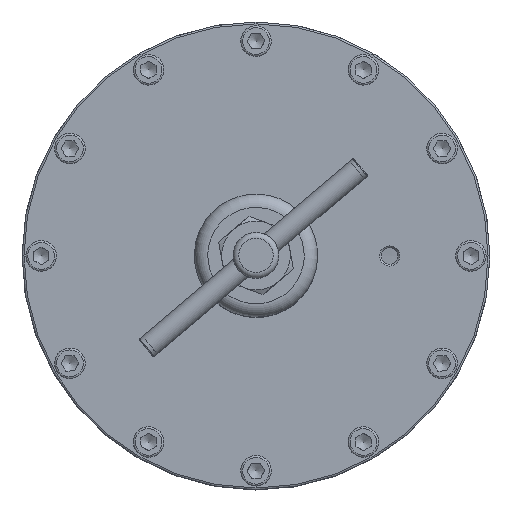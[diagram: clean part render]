
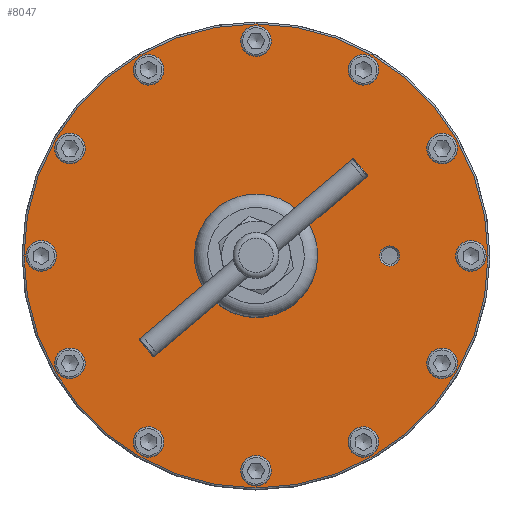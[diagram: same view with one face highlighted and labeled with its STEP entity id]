
A CAD part, top view. The second image highlights one B-rep face of the part: STEP entity #8047.
In plain terms, the highlighted planar face has unit normal (0, 0, 1) as drawn and (0, 1, 0) by its records, which use the part's own axes.
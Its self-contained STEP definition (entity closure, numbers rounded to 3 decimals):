
#7873=CARTESIAN_POINT('',(75.283,0.,0.));
#7874=VERTEX_POINT('',#7873);
#7875=CARTESIAN_POINT('',(70.,0.,0.));
#7876=DIRECTION('',(0.0,1.0,0.0));
#7877=DIRECTION('',(-1.0,0.0,0.0));
#7878=AXIS2_PLACEMENT_3D('',#7875,#7876,#7877);
#7879=CIRCLE('',#7878,5.283);
#7880=EDGE_CURVE('',#7874,#7874,#7879,.T.);
#7885=CARTESIAN_POINT('',(-25.,0.,0.));
#7886=DIRECTION('',(0.0,1.0,0.0));
#7887=DIRECTION('',(0.0,0.0,1.0));
#7888=AXIS2_PLACEMENT_3D('',#7885,#7886,#7887);
#7889=PLANE('',#7888);
#7890=CARTESIAN_POINT('',(-121.5,0.,0.));
#7891=VERTEX_POINT('',#7890);
#7892=CARTESIAN_POINT('',(0.,0.,0.));
#7893=DIRECTION('',(0.0,-1.0,0.0));
#7894=DIRECTION('',(1.0,0.0,0.0));
#7895=AXIS2_PLACEMENT_3D('',#7892,#7893,#7894);
#7896=CIRCLE('',#7895,121.5);
#7897=EDGE_CURVE('',#7891,#7891,#7896,.T.);
#7898=ORIENTED_EDGE('',*,*,#7897,.F.);
#7899=EDGE_LOOP('',(#7898));
#7900=FACE_OUTER_BOUND('',#7899,.T.);
#7901=CARTESIAN_POINT('',(-92.881,0.,-53.625));
#7902=VERTEX_POINT('',#7901);
#7903=CARTESIAN_POINT('',(-97.428,0.,-56.25));
#7904=DIRECTION('',(0.0,-1.0,0.0));
#7905=DIRECTION('',(0.866,0.0,0.5));
#7906=AXIS2_PLACEMENT_3D('',#7903,#7904,#7905);
#7907=CIRCLE('',#7906,5.25);
#7908=EDGE_CURVE('',#7902,#7902,#7907,.T.);
#7909=ORIENTED_EDGE('',*,*,#7908,.T.);
#7910=EDGE_LOOP('',(#7909));
#7911=FACE_BOUND('',#7910,.T.);
#7912=CARTESIAN_POINT('',(-53.625,0.,-92.881));
#7913=VERTEX_POINT('',#7912);
#7914=CARTESIAN_POINT('',(-56.25,0.,-97.428));
#7915=DIRECTION('',(0.0,-1.,0.0));
#7916=DIRECTION('',(0.5,0.0,0.866));
#7917=AXIS2_PLACEMENT_3D('',#7914,#7915,#7916);
#7918=CIRCLE('',#7917,5.25);
#7919=EDGE_CURVE('',#7913,#7913,#7918,.T.);
#7920=ORIENTED_EDGE('',*,*,#7919,.T.);
#7921=EDGE_LOOP('',(#7920));
#7922=FACE_BOUND('',#7921,.T.);
#7923=CARTESIAN_POINT('',(0.,0.,-107.25));
#7924=VERTEX_POINT('',#7923);
#7925=CARTESIAN_POINT('',(0.,0.,-112.5));
#7926=DIRECTION('',(0.0,-1.0,0.0));
#7927=DIRECTION('',(0.0,0.0,1.0));
#7928=AXIS2_PLACEMENT_3D('',#7925,#7926,#7927);
#7929=CIRCLE('',#7928,5.25);
#7930=EDGE_CURVE('',#7924,#7924,#7929,.T.);
#7931=ORIENTED_EDGE('',*,*,#7930,.T.);
#7932=EDGE_LOOP('',(#7931));
#7933=FACE_BOUND('',#7932,.T.);
#7934=CARTESIAN_POINT('',(53.625,0.,-92.881));
#7935=VERTEX_POINT('',#7934);
#7936=CARTESIAN_POINT('',(56.25,0.,-97.428));
#7937=DIRECTION('',(0.0,-1.0,0.0));
#7938=DIRECTION('',(-0.5,0.0,0.866));
#7939=AXIS2_PLACEMENT_3D('',#7936,#7937,#7938);
#7940=CIRCLE('',#7939,5.25);
#7941=EDGE_CURVE('',#7935,#7935,#7940,.T.);
#7942=ORIENTED_EDGE('',*,*,#7941,.T.);
#7943=EDGE_LOOP('',(#7942));
#7944=FACE_BOUND('',#7943,.T.);
#7945=CARTESIAN_POINT('',(92.881,0.,-53.625));
#7946=VERTEX_POINT('',#7945);
#7947=CARTESIAN_POINT('',(97.428,0.,-56.25));
#7948=DIRECTION('',(0.0,-1.0,0.0));
#7949=DIRECTION('',(-0.866,0.0,0.5));
#7950=AXIS2_PLACEMENT_3D('',#7947,#7948,#7949);
#7951=CIRCLE('',#7950,5.25);
#7952=EDGE_CURVE('',#7946,#7946,#7951,.T.);
#7953=ORIENTED_EDGE('',*,*,#7952,.T.);
#7954=EDGE_LOOP('',(#7953));
#7955=FACE_BOUND('',#7954,.T.);
#7956=CARTESIAN_POINT('',(107.25,0.,0.));
#7957=VERTEX_POINT('',#7956);
#7958=CARTESIAN_POINT('',(112.5,0.,0.));
#7959=DIRECTION('',(0.0,-1.0,0.0));
#7960=DIRECTION('',(-1.0,0.0,0.0));
#7961=AXIS2_PLACEMENT_3D('',#7958,#7959,#7960);
#7962=CIRCLE('',#7961,5.25);
#7963=EDGE_CURVE('',#7957,#7957,#7962,.T.);
#7964=ORIENTED_EDGE('',*,*,#7963,.T.);
#7965=EDGE_LOOP('',(#7964));
#7966=FACE_BOUND('',#7965,.T.);
#7967=CARTESIAN_POINT('',(92.881,0.,53.625));
#7968=VERTEX_POINT('',#7967);
#7969=CARTESIAN_POINT('',(97.428,0.,56.25));
#7970=DIRECTION('',(0.0,-1.0,0.0));
#7971=DIRECTION('',(-0.866,0.0,-0.5));
#7972=AXIS2_PLACEMENT_3D('',#7969,#7970,#7971);
#7973=CIRCLE('',#7972,5.25);
#7974=EDGE_CURVE('',#7968,#7968,#7973,.T.);
#7975=ORIENTED_EDGE('',*,*,#7974,.T.);
#7976=EDGE_LOOP('',(#7975));
#7977=FACE_BOUND('',#7976,.T.);
#7978=CARTESIAN_POINT('',(53.625,0.,92.881));
#7979=VERTEX_POINT('',#7978);
#7980=CARTESIAN_POINT('',(56.25,0.,97.428));
#7981=DIRECTION('',(0.0,-1.0,0.0));
#7982=DIRECTION('',(-0.5,0.0,-0.866));
#7983=AXIS2_PLACEMENT_3D('',#7980,#7981,#7982);
#7984=CIRCLE('',#7983,5.25);
#7985=EDGE_CURVE('',#7979,#7979,#7984,.T.);
#7986=ORIENTED_EDGE('',*,*,#7985,.T.);
#7987=EDGE_LOOP('',(#7986));
#7988=FACE_BOUND('',#7987,.T.);
#7989=CARTESIAN_POINT('',(0.,0.,107.25));
#7990=VERTEX_POINT('',#7989);
#7991=CARTESIAN_POINT('',(0.,0.,112.5));
#7992=DIRECTION('',(0.0,-1.0,0.0));
#7993=DIRECTION('',(0.0,0.0,-1.0));
#7994=AXIS2_PLACEMENT_3D('',#7991,#7992,#7993);
#7995=CIRCLE('',#7994,5.25);
#7996=EDGE_CURVE('',#7990,#7990,#7995,.T.);
#7997=ORIENTED_EDGE('',*,*,#7996,.T.);
#7998=EDGE_LOOP('',(#7997));
#7999=FACE_BOUND('',#7998,.T.);
#8000=CARTESIAN_POINT('',(-53.625,0.,92.881));
#8001=VERTEX_POINT('',#8000);
#8002=CARTESIAN_POINT('',(-56.25,0.,97.428));
#8003=DIRECTION('',(0.0,-1.0,0.0));
#8004=DIRECTION('',(0.5,0.0,-0.866));
#8005=AXIS2_PLACEMENT_3D('',#8002,#8003,#8004);
#8006=CIRCLE('',#8005,5.25);
#8007=EDGE_CURVE('',#8001,#8001,#8006,.T.);
#8008=ORIENTED_EDGE('',*,*,#8007,.T.);
#8009=EDGE_LOOP('',(#8008));
#8010=FACE_BOUND('',#8009,.T.);
#8011=CARTESIAN_POINT('',(-92.881,0.,53.625));
#8012=VERTEX_POINT('',#8011);
#8013=CARTESIAN_POINT('',(-97.428,0.,56.25));
#8014=DIRECTION('',(0.0,-1.0,0.0));
#8015=DIRECTION('',(0.866,0.0,-0.5));
#8016=AXIS2_PLACEMENT_3D('',#8013,#8014,#8015);
#8017=CIRCLE('',#8016,5.25);
#8018=EDGE_CURVE('',#8012,#8012,#8017,.T.);
#8019=ORIENTED_EDGE('',*,*,#8018,.T.);
#8020=EDGE_LOOP('',(#8019));
#8021=FACE_BOUND('',#8020,.T.);
#8022=CARTESIAN_POINT('',(-107.25,0.,0.));
#8023=VERTEX_POINT('',#8022);
#8024=CARTESIAN_POINT('',(-112.5,0.,0.));
#8025=DIRECTION('',(0.0,-1.0,0.0));
#8026=DIRECTION('',(1.0,0.0,0.0));
#8027=AXIS2_PLACEMENT_3D('',#8024,#8025,#8026);
#8028=CIRCLE('',#8027,5.25);
#8029=EDGE_CURVE('',#8023,#8023,#8028,.T.);
#8030=ORIENTED_EDGE('',*,*,#8029,.T.);
#8031=EDGE_LOOP('',(#8030));
#8032=FACE_BOUND('',#8031,.T.);
#8033=CARTESIAN_POINT('',(-32.25,0.,0.));
#8034=VERTEX_POINT('',#8033);
#8035=CARTESIAN_POINT('',(0.,0.,0.));
#8036=DIRECTION('',(0.0,-1.0,0.0));
#8037=DIRECTION('',(-1.0,0.0,0.0));
#8038=AXIS2_PLACEMENT_3D('',#8035,#8036,#8037);
#8039=CIRCLE('',#8038,32.25);
#8040=EDGE_CURVE('',#8034,#8034,#8039,.T.);
#8041=ORIENTED_EDGE('',*,*,#8040,.T.);
#8042=EDGE_LOOP('',(#8041));
#8043=FACE_BOUND('',#8042,.T.);
#8044=ORIENTED_EDGE('',*,*,#7880,.F.);
#8045=EDGE_LOOP('',(#8044));
#8046=FACE_BOUND('',#8045,.T.);
#8047=ADVANCED_FACE('',(#7900,#7911,#7922,#7933,#7944,#7955,#7966,#7977,#7988,#7999,#8010,#8021,#8032,#8043,#8046),#7889,.T.);
